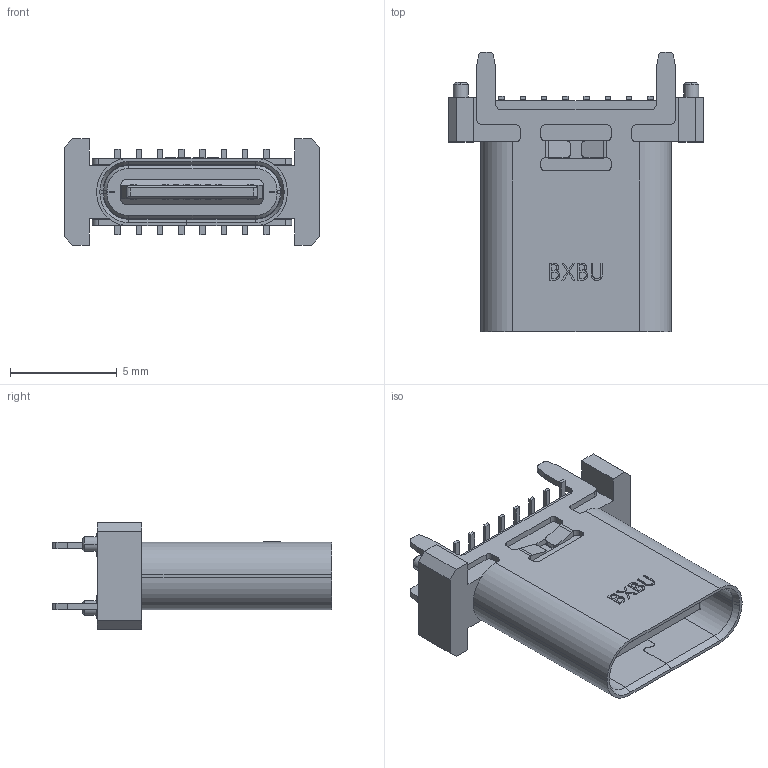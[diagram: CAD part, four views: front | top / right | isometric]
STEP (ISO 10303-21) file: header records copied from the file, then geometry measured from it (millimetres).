
FILE_DESCRIPTION (( 'STEP AP203' ), '1' );
FILE_NAME ('U5106-16PN11.0L.STEP', '2026-09-21T06:18:49', ( '' ), ( '' ), 'SwSTEP 2.0', 'SolidWorks 2024', '' );
FILE_SCHEMA (( 'CONFIG_CONTROL_DESIGN' ));
Length unit declared in the file: millimetre
Products named in the file (1): U5106-16PN11.0L
Bounding box: 12 x 13.1 x 5 mm (x, y, z)
Volume: 218.2 mm3; surface area: 735.6 mm2
Topology: 2 solids, 2 shells, 539 faces, 1490 edges, 988 vertices
Faces by surface type: plane 364, cylinder 138, bspline 25, cone 12
Entity records: 18539 total; most frequent: CARTESIAN_POINT 4597, ORIENTED_EDGE 2980, DIRECTION 2752, EDGE_CURVE 1490, VECTOR 1130, LINE 1130, VERTEX_POINT 988, AXIS2_PLACEMENT_3D 811
